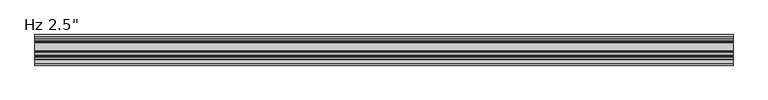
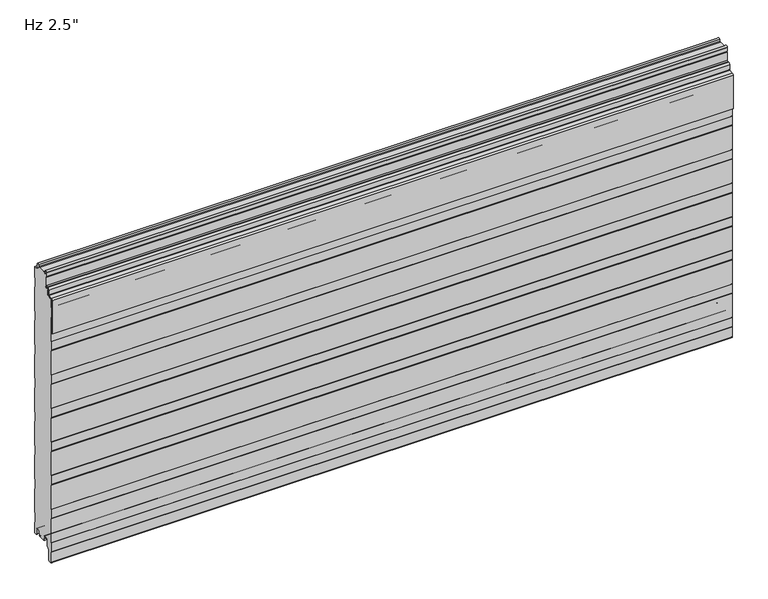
"""IFC4 building model written with IfcOpenShell, lengths in millimetres: plate geometry."""

import ifcopenshell
import ifcopenshell.guid

model = None  # the IFC model being written
_history = None  # IfcOwnerHistory: only IFC2X3 demands one
_inside = {}  # id of a spatial element -> (the spatial element, [elements in it])
_under = {}  # id of a project, library or spatial element -> (it, [spatial elements below it])
_declared = {}  # id of a project -> (the project, [libraries it declares])
_typed = {}  # id of a type object -> (the type object, [elements of that type])
_made_of = {}  # id of a material, layer set ... -> (it, [elements and type objects made of it])


def new_model(schema):
    """Start an empty IFC model of exactly this schema.

    Asked for "IFC4X3", IfcOpenShell would pick the latest addendum, in which some entities
    have other attributes; the version numbers below select the first issue.
    IFC2X3 requires an IfcOwnerHistory on every rooted entity: one is made here for all.
    """
    global model, _history
    if schema == "IFC4X3":
        model = ifcopenshell.file(schema_version=(4, 3, 0, 0))
    else:
        model = ifcopenshell.file(schema=schema)
    _inside.clear()
    _under.clear()
    _declared.clear()
    _typed.clear()
    _made_of.clear()
    _history = None
    if model.schema == "IFC2X3":
        org = make("IfcOrganization", Name="unknown")
        user = make(
            "IfcPersonAndOrganization",
            ThePerson=make("IfcPerson", FamilyName="unknown"),
            TheOrganization=org,
        )
        app = make(
            "IfcApplication",
            ApplicationDeveloper=org,
            Version="unknown",
            ApplicationFullName="unknown",
            ApplicationIdentifier="unknown",
        )
        _history = make(
            "IfcOwnerHistory",
            OwningUser=user,
            OwningApplication=app,
            ChangeAction="ADDED",
            CreationDate=0,
        )
    return model


def make(cls, **values):
    """One entity of the class cls with the attributes given. An attribute that is None is left unset."""
    return model.create_entity(
        cls, **{name: value for name, value in values.items() if value is not None}
    )


def rooted(cls, **values):
    """An entity with a GlobalId (a new one), such as an element, a storey or a relation."""
    return make(cls, GlobalId=ifcopenshell.guid.new(), OwnerHistory=_history, **values)


def si_unit(unit_type, name, prefix=None):
    """IfcSIUnit, for example si_unit("LENGTHUNIT", "METRE", prefix="MILLI")."""
    return make("IfcSIUnit", UnitType=unit_type, Prefix=prefix, Name=name)


def assignment(units):
    """IfcUnitAssignment: the units of a project."""
    return None if units is None else make("IfcUnitAssignment", Units=units)


def point(xyz):
    """IfcCartesianPoint."""
    return None if xyz is None else make("IfcCartesianPoint", Coordinates=xyz)


def direction(xyz):
    """IfcDirection."""
    return None if xyz is None else make("IfcDirection", DirectionRatios=xyz)


def frame(location, z_axis=None, x_axis=None):
    """IfcAxis2Placement3D, a coordinate frame: its origin and axes. An axis left out is left unset."""
    return make(
        "IfcAxis2Placement3D",
        Location=point(location),
        Axis=direction(z_axis),
        RefDirection=direction(x_axis),
    )


def frame_2d(location, x_axis=None):
    """IfcAxis2Placement2D, a coordinate frame in the plane: its origin and x axis."""
    return make(
        "IfcAxis2Placement2D", Location=point(location), RefDirection=direction(x_axis)
    )


def origin():
    """The frame at (0, 0, 0) with its axes left unset."""
    return frame((0.0, 0.0, 0.0))


def place(relative_to, where):
    """IfcLocalPlacement: puts the frame where relative to a parent placement (None: the world)."""
    return make(
        "IfcLocalPlacement", PlacementRelTo=relative_to, RelativePlacement=where
    )


def context(
    kind, dimensions, precision=None, world=None, true_north=None, identifier=None
):
    """IfcGeometricRepresentationContext, for example the 3D "Model" context."""
    return make(
        "IfcGeometricRepresentationContext",
        ContextIdentifier=identifier,
        ContextType=kind,
        CoordinateSpaceDimension=dimensions,
        Precision=precision,
        WorldCoordinateSystem=world,
        TrueNorth=true_north,
    )


def project(units=None, contexts=None):
    """IfcProject with its units and contexts."""
    return rooted(
        "IfcProject",
        Name="project",
        RepresentationContexts=contexts,
        UnitsInContext=assignment(units),
    )


def spatial(cls, under=None, at=None, **own):
    """A site, building, storey or space (cls), placed at a placement, below another one or the project."""
    s = rooted(cls, ObjectPlacement=at, **own)
    if under is not None:
        _under.setdefault(under.id(), (under, []))[1].append(s)
    return s


def polyline(points):
    """IfcPolyline through the points."""
    return make("IfcPolyline", Points=[point(p) for p in points])


def circle_curve(where, radius):
    """IfcCircle in the frame where."""
    return make("IfcCircle", Position=where, Radius=radius)


def trimmed(basis, trim1, trim2, sense, master):
    """IfcTrimmedCurve: the piece of a basis curve between two trims."""
    return make(
        "IfcTrimmedCurve",
        BasisCurve=basis,
        Trim1=trim1,
        Trim2=trim2,
        SenseAgreement=sense,
        MasterRepresentation=master,
    )


def segment(curve, same_sense, transition):
    """IfcCompositeCurveSegment."""
    return make(
        "IfcCompositeCurveSegment",
        Transition=transition,
        SameSense=same_sense,
        ParentCurve=curve,
    )


def composite_curve(segments, self_intersect=None):
    """IfcCompositeCurve: segments joined end to end."""
    return make("IfcCompositeCurve", Segments=segments, SelfIntersect=self_intersect)


def outline(outer, holes=None, kind="AREA"):
    """IfcArbitraryClosedProfileDef: a profile drawn as a closed curve; with holes, ...WithVoids."""
    if holes is None:
        return make("IfcArbitraryClosedProfileDef", ProfileType=kind, OuterCurve=outer)
    return make(
        "IfcArbitraryProfileDefWithVoids",
        ProfileType=kind,
        OuterCurve=outer,
        InnerCurves=holes,
    )


def extrude(swept, where, along, depth):
    """IfcExtrudedAreaSolid: the profile swept, set in the frame where, extruded along a direction by depth."""
    return make(
        "IfcExtrudedAreaSolid",
        SweptArea=swept,
        Position=where,
        ExtrudedDirection=direction(along),
        Depth=depth,
    )


def shape(context_of_items, identifier, shape_type, items):
    """IfcShapeRepresentation: the items that make up one representation, for example the "Body"."""
    return make(
        "IfcShapeRepresentation",
        ContextOfItems=context_of_items,
        RepresentationIdentifier=identifier,
        RepresentationType=shape_type,
        Items=items,
    )


def source(mapping_origin, context_of_items, identifier, shape_type, items):
    """IfcRepresentationMap: a shape defined once, which mapped items show again and again."""
    return make(
        "IfcRepresentationMap",
        MappingOrigin=mapping_origin,
        MappedRepresentation=shape(context_of_items, identifier, shape_type, items),
    )


def transform(
    local_origin,
    x_axis=None,
    y_axis=None,
    z_axis=None,
    scale=None,
    scale2=None,
    scale3=None,
    uniform=True,
):
    """IfcCartesianTransformationOperator3D, or its non-uniform kind. x_axis, y_axis, z_axis: its Axis1, 2, 3."""
    if uniform:
        return make(
            "IfcCartesianTransformationOperator3D",
            Axis1=direction(x_axis),
            Axis2=direction(y_axis),
            LocalOrigin=point(local_origin),
            Scale=scale,
            Axis3=direction(z_axis),
        )
    return make(
        "IfcCartesianTransformationOperator3DnonUniform",
        Axis1=direction(x_axis),
        Axis2=direction(y_axis),
        LocalOrigin=point(local_origin),
        Scale=scale,
        Axis3=direction(z_axis),
        Scale2=scale2,
        Scale3=scale3,
    )


def mapped(mapping_source, mapping_target):
    """IfcMappedItem: shows the shape of a source again, moved by a transform."""
    return make(
        "IfcMappedItem", MappingSource=mapping_source, MappingTarget=mapping_target
    )


def made_of(thing, what):
    """Note that an element or type object is made of a material, layer set ...; save() writes the relation."""
    if what is not None:
        _made_of.setdefault(what.id(), (what, []))[1].append(thing)
    return thing


def element(
    cls,
    number,
    at=None,
    inside=None,
    cuts=None,
    type_object=None,
    material=None,
    context=None,
    identifier="Body",
    shape_type=None,
    held_by="IfcProductDefinitionShape",
    body=None,
    shapes=None,
    **own,
):
    """One element of the class cls, such as IfcWall. Its Tag is "e" and its number.

    at: its placement. inside: the storey or other place that contains it. cuts: it is an
    opening in that element (IfcRelVoidsElement). A single representation is given by context,
    identifier, shape_type and body (its items); several are given by shapes. held_by: the class
    of the entity that holds the representations. save() writes the other relations.
    """
    e = rooted(cls, Tag="e%d" % number, ObjectPlacement=at, **own)
    if body is not None:
        shapes = [shape(context, identifier, shape_type, body)]
    if shapes is not None:
        e.Representation = make(held_by, Representations=shapes)
    if inside is not None:
        _inside.setdefault(inside.id(), (inside, []))[1].append(e)
    if cuts is not None:
        rooted(
            "IfcRelVoidsElement", RelatingBuildingElement=cuts, RelatedOpeningElement=e
        )
    if type_object is not None:
        _typed.setdefault(type_object.id(), (type_object, []))[1].append(e)
    return made_of(e, material)


def aggregate(whole, parts):
    """IfcRelAggregates: a whole, such as a stair, and the parts it consists of."""
    return rooted("IfcRelAggregates", RelatingObject=whole, RelatedObjects=parts)


def save(model, path):
    """Write the relations noted so far, then the file.

    IfcRelAggregates (storeys below a building ...), IfcRelContainedInSpatialStructure (elements
    in a storey), IfcRelDefinesByType, IfcRelAssociatesMaterial and IfcRelDeclares: one each for
    every whole, place, type object, material and project.
    """
    for whole, parts in _under.values():
        aggregate(whole, parts)
    for where, things in _inside.values():
        rooted(
            "IfcRelContainedInSpatialStructure",
            RelatedElements=things,
            RelatingStructure=where,
        )
    for kind, things in _typed.values():
        rooted("IfcRelDefinesByType", RelatedObjects=things, RelatingType=kind)
    for what, things in _made_of.values():
        rooted("IfcRelAssociatesMaterial", RelatedObjects=things, RelatingMaterial=what)
    for by, libraries in _declared.values():
        rooted("IfcRelDeclares", RelatingContext=by, RelatedDefinitions=libraries)
    model.write(path)


def plane_surface(at):
    """IfcPlane: the flat surface through the origin of the frame at, square to its z axis."""
    return make("IfcPlane", Position=at)


def cylinder_surface(at, radius):
    """IfcCylindricalSurface: all points at the distance radius from the z axis of the frame at."""
    return make("IfcCylindricalSurface", Position=at, Radius=radius)


def revolved_surface(curve, axis_point, axis_direction):
    """IfcSurfaceOfRevolution: the curve turned about the line through axis_point along axis_direction."""
    return make(
        "IfcSurfaceOfRevolution",
        SweptCurve=make("IfcArbitraryOpenProfileDef", ProfileType="CURVE", Curve=curve),
        AxisPosition=make("IfcAxis1Placement", Location=point(axis_point), Axis=direction(axis_direction)),
    )


def advanced_brep(points, edges, surfaces, faces):
    """IfcAdvancedBrep: a solid bounded by faces that lie on surfaces and meet in shared edges.

    An edge is (start, end): straight between two places in points (the first is 0);
    or (start, end, curve); or (start, end, curve, False) where it runs against its curve.
    A face is (place in surfaces, loops), or (place, loops, False) where it looks against
    its surface's normal. A loop lists edges by number (the first is 1), with a minus sign
    where the edge is run from its end to its start. The first loop is the outer one.
    """
    corners = [point(p) for p in points]
    vertices = [make("IfcVertexPoint", VertexGeometry=c) for c in corners]
    made = []
    for start, end, *more in edges:
        made.append(
            make(
                "IfcEdgeCurve",
                EdgeStart=vertices[start],
                EdgeEnd=vertices[end],
                EdgeGeometry=more[0] if more else make("IfcPolyline", Points=[corners[start], corners[end]]),
                SameSense=more[1] if len(more) > 1 else True,
            )
        )
    hull = []
    for where, loops, *sense in faces:
        bounds = []
        for j, loop in enumerate(loops):
            ring = [make("IfcOrientedEdge", EdgeElement=made[abs(k) - 1], Orientation=k > 0) for k in loop]
            bounds.append(
                make(
                    "IfcFaceOuterBound" if j == 0 else "IfcFaceBound",
                    Bound=make("IfcEdgeLoop", EdgeList=ring),
                    Orientation=True,
                )
            )
        hull.append(make("IfcAdvancedFace", Bounds=bounds, FaceSurface=surfaces[where], SameSense=sense[0] if sense else True))
    return make("IfcAdvancedBrep", Outer=make("IfcClosedShell", CfsFaces=hull))


def plate_c366fed6(model_context):
    return source(origin(), model_context, "Body", "SolidModel", [
        advanced_brep(
        [(730.0, -42.4008679, 583.4464086), (730.0, -42.4008679, 602.1916086), (730.0, -43.9248679, 602.1916086), (730.0, -43.9248679, 583.4464086), (730.0, -45.4488679, 581.9224086), (730.0, -48.5476679, 581.9224086), (730.0, -52.0020679, 578.4680086), (730.0, -52.0020679, 567.2554512), (730.0, -52.6976552, 566.4963509), (730.0, -62.2416507, 565.3015233), (730.0, -65.024, 562.2651218), (730.0, -65.0360323, 486.6978086), (730.0, -63.5, 486.6978086), (730.0, -63.5, 562.2651218), (730.0, -62.1088254, 563.7833225), (730.0, -52.5648299, 564.9781501), (730.0, -50.4780679, 567.2554512), (730.0, -50.4780679, 578.4680086), (730.0, -48.5476679, 580.3984086), (730.0, -45.4488679, 580.3984086), (-730.0, -42.4008679, 583.4464086), (-730.0, -45.4488679, 580.3984086), (-730.0, -48.5476679, 580.3984086), (-730.0, -50.4780679, 578.4680086), (-730.0, -50.4780679, 567.2554512), (-730.0, -52.5648299, 564.9781501), (-730.0, -62.1088254, 563.7833225), (-730.0, -63.5, 562.2651218), (-730.0, -63.5, 486.6978086), (-730.0, -65.0360323, 486.6978086), (-730.0, -65.0360323, 562.2651218), (-730.0, -62.2416507, 565.3015233), (-730.0, -52.6976552, 566.4963509), (-730.0, -52.0020679, 567.2554512), (-730.0, -52.0020679, 578.4680086), (-730.0, -48.5476679, 581.9224086), (-730.0, -45.4488679, 581.9224086), (-730.0, -43.9248679, 583.4464086), (-730.0, -43.9248679, 602.1916086), (-730.0, -42.4008679, 602.1916086)],
        [
            (0, 1),
            (1, 2),
            (2, 3),
            (3, 4, circle_curve(frame((730.0, -45.4488679, 583.4464086), z_axis=(-1.0, 0.0, 0.0), x_axis=(0.0, 1.0, 0.0)), 1.524)),
            (4, 5),
            (5, 6, circle_curve(frame((730.0, -48.5476679, 578.4680086), z_axis=(1.0, 0.0, 0.0), x_axis=(0.0, 1.0, 0.0)), 3.4544)),
            (6, 7),
            (7, 8, circle_curve(frame((730.0, -52.7640679, 567.2554512), z_axis=(-1.0, 0.0, 0.0), x_axis=(0.0, 1.0, 0.0)), 0.762)),
            (8, 9),
            (9, 10, circle_curve(frame((730.0, -61.976, 562.2651218), z_axis=(1.0, 0.0, 0.0), x_axis=(0.0, 1.0, 0.0)), 3.048)),
            (10, 11),
            (11, 12),
            (12, 13),
            (13, 14, circle_curve(frame((730.0, -61.976, 562.2651218), z_axis=(-1.0, 0.0, 0.0), x_axis=(0.0, 1.0, 0.0)), 1.524)),
            (14, 15),
            (15, 16, circle_curve(frame((730.0, -52.7640679, 567.2554512), z_axis=(1.0, 0.0, 0.0), x_axis=(0.0, 1.0, 0.0)), 2.286)),
            (16, 17),
            (17, 18, circle_curve(frame((730.0, -48.5476679, 578.4680086), z_axis=(-1.0, 0.0, 0.0), x_axis=(0.0, 1.0, 0.0)), 1.9304)),
            (18, 19),
            (19, 0, circle_curve(frame((730.0, -45.4488679, 583.4464086), z_axis=(1.0, 0.0, 0.0), x_axis=(0.0, 1.0, 0.0)), 3.048)),
            (20, 21, circle_curve(frame((-730.0, -45.4488679, 583.4464086), z_axis=(-1.0, 0.0, 0.0), x_axis=(0.0, 1.0, 0.0)), 3.048)),
            (21, 22),
            (22, 23, circle_curve(frame((-730.0, -48.5476679, 578.4680086), z_axis=(1.0, 0.0, 0.0), x_axis=(0.0, 1.0, 0.0)), 1.9304)),
            (23, 24),
            (24, 25, circle_curve(frame((-730.0, -52.7640679, 567.2554512), z_axis=(-1.0, 0.0, 0.0), x_axis=(0.0, 1.0, 0.0)), 2.286)),
            (25, 26),
            (26, 27, circle_curve(frame((-730.0, -61.976, 562.2651218), z_axis=(1.0, 0.0, 0.0), x_axis=(0.0, 1.0, 0.0)), 1.524)),
            (27, 28),
            (28, 29),
            (29, 30),
            (30, 31, circle_curve(frame((-730.0, -61.976, 562.2651218), z_axis=(-1.0, 0.0, 0.0), x_axis=(0.0, 1.0, 0.0)), 3.048)),
            (31, 32),
            (32, 33, circle_curve(frame((-730.0, -52.7640679, 567.2554512), z_axis=(1.0, 0.0, 0.0), x_axis=(0.0, 1.0, 0.0)), 0.762)),
            (33, 34),
            (34, 35, circle_curve(frame((-730.0, -48.5476679, 578.4680086), z_axis=(-1.0, 0.0, 0.0), x_axis=(0.0, 1.0, 0.0)), 3.4544)),
            (35, 36),
            (36, 37, circle_curve(frame((-730.0, -45.4488679, 583.4464086), z_axis=(1.0, 0.0, 0.0), x_axis=(0.0, 1.0, 0.0)), 1.524)),
            (37, 38),
            (38, 39),
            (39, 20),
            (2, 38),
            (37, 3),
            (15, 25),
            (24, 16),
            (7, 33),
            (32, 8),
            (5, 35),
            (34, 6),
            (1, 39),
            (36, 4),
            (9, 31),
            (30, 10),
            (13, 27),
            (26, 14),
            (0, 20),
            (12, 28),
            (29, 11),
            (23, 17),
            (18, 22),
            (21, 19),
        ],
        [
            plane_surface(frame((730.0, -63.5, 602.1916086), z_axis=(1.0, 0.0, 0.0), x_axis=(0.0, 0.0, -1.0))),
            plane_surface(frame((-730.0, -63.5, 602.1916086), z_axis=(-1.0, 0.0, 0.0), x_axis=(0.0, 0.0, -1.0))),
            plane_surface(frame((730.0, -43.9248679, 583.4464086), z_axis=(0.0, -1.0, 0.0), x_axis=(-1.0, 0.0, 0.0))),
            cylinder_surface(frame((730.0, -52.7640679, 567.2554512), z_axis=(1.0, 0.0, 0.0), x_axis=(0.0, 1.0, 0.0)), 2.286),
            revolved_surface(polyline([(-730.0, -52.0020679, 567.2554512), (730.0, -52.0020679, 567.2554512)]), (730.0, -52.7640679, 567.2554512), (-1.0, 0.0, 0.0)),
            cylinder_surface(frame((730.0, -48.5476679, 578.4680086), z_axis=(1.0, 0.0, 0.0), x_axis=(0.0, 1.0, 0.0)), 3.4544),
            plane_surface(frame((730.0, -43.9248679, 602.1916086), z_axis=(0.0, 0.0, 1.0), x_axis=(-1.0, 0.0, 0.0))),
            revolved_surface(polyline([(-730.0, -43.9248679, 583.4464086), (730.0, -43.9248679, 583.4464086)]), (730.0, -45.4488679, 583.4464086), (-1.0, 0.0, 0.0)),
            cylinder_surface(frame((730.0, -61.976, 562.2651218), z_axis=(1.0, 0.0, 0.0), x_axis=(0.0, 1.0, 0.0)), 3.048),
            revolved_surface(polyline([(-730.0, -60.452, 562.2651218), (730.0, -60.452, 562.2651218)]), (730.0, -61.976, 562.2651218), (-1.0, 0.0, 0.0)),
            plane_surface(frame((730.0, -42.4008679, 602.1916086), z_axis=(0.0, 1.0, 0.0), x_axis=(-1.0, 0.0, 0.0))),
            plane_surface(frame((730.0, -52.5648299, 564.9781501), z_axis=(0.0, 0.12422187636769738, -0.9922544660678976), x_axis=(-1.0, 0.0, 0.0))),
            plane_surface(frame((730.0, -63.5, 562.2651218), z_axis=(0.0, 1.0, 0.0), x_axis=(-1.0, 0.0, 0.0))),
            plane_surface(frame((730.0, -62.2416507, 565.3015233), z_axis=(0.0, -0.12422187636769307, 0.9922544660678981), x_axis=(-1.0, 0.0, 0.0))),
            plane_surface(frame((730.0, -48.5476679, 581.9224086), z_axis=(0.0, 0.0, 1.0), x_axis=(-1.0, 0.0, 0.0))),
            plane_surface(frame((730.0, -65.0360323, 486.6978086), z_axis=(0.0, -1.0, 0.0), x_axis=(-1.0, 0.0, 0.0))),
            plane_surface(frame((730.0, -63.5, 486.6978086), z_axis=(0.0, 0.0, -1.0), x_axis=(-1.0, 0.0, 0.0))),
            plane_surface(frame((730.0, -50.4780679, 578.4680086), z_axis=(0.0, 1.0, 0.0), x_axis=(-1.0, 0.0, 0.0))),
            plane_surface(frame((730.0, -45.4488679, 580.3984086), z_axis=(0.0, 0.0, -1.0), x_axis=(-1.0, 0.0, 0.0))),
            plane_surface(frame((730.0, -52.0020679, 567.2554512), z_axis=(0.0, -1.0, 0.0), x_axis=(-1.0, 0.0, 0.0))),
            revolved_surface(polyline([(-730.0, -46.6172679, 578.4680086), (730.0, -46.6172679, 578.4680086)]), (730.0, -48.5476679, 578.4680086), (-1.0, 0.0, 0.0)),
            cylinder_surface(frame((730.0, -45.4488679, 583.4464086), z_axis=(1.0, 0.0, 0.0), x_axis=(0.0, 1.0, 0.0)), 3.048),
        ],
        [
            (0, [[1, 2, 3, 4, 5, 6, 7, 8, 9, 10, 11, 12, 13, 14, 15, 16, 17, 18, 19, 20]]),
            (1, [[21, 22, 23, 24, 25, 26, 27, 28, 29, 30, 31, 32, 33, 34, 35, 36, 37, 38, 39, 40]]),
            (2, [[41, -38, 42, -3]]),
            (3, [[43, -25, 44, -16]]),
            (4, [[45, -33, 46, -8]]),
            (5, [[47, -35, 48, -6]]),
            (6, [[49, -39, -41, -2]]),
            (7, [[-42, -37, 50, -4]]),
            (8, [[51, -31, 52, -10]]),
            (9, [[53, -27, 54, -14]]),
            (10, [[55, -40, -49, -1]]),
            (11, [[-54, -26, -43, -15]]),
            (12, [[56, -28, -53, -13]]),
            (13, [[-46, -32, -51, -9]]),
            (14, [[-50, -36, -47, -5]]),
            (15, [[-52, -30, 57, -11]]),
            (16, [[-57, -29, -56, -12]]),
            (17, [[-44, -24, 58, -17]]),
            (18, [[59, -22, 60, -19]]),
            (19, [[-48, -34, -45, -7]]),
            (20, [[-58, -23, -59, -18]]),
            (21, [[-60, -21, -55, -20]]),
        ],
    ),
        extrude(outline(composite_curve([segment(trimmed(circle_curve(frame_2d((-35.206538, 2.2313092)), 1.1999976), [point((-35.1760161, 1.0316999))], [point((-34.0065413, 2.2328239))], True, "CARTESIAN"), True, "CONTINUOUS"), segment(polyline([(-34.0065413, 2.2328239), (-34.0065413, 5.9912173), (-35.4050202, 5.9912173), (-35.4050202, 8.6903283)]), True, "CONTINUOUS"), segment(trimmed(circle_curve(frame_2d((-38.7550155, 8.6903283)), 3.3499953), [point((-35.4050202, 8.6903283))], [point((-38.7550155, 12.0403236))], True, "CARTESIAN"), True, "CONTINUOUS"), segment(polyline([(-38.7550155, 12.0403236), (-43.1550067, 12.0403236)]), True, "CONTINUOUS"), segment(trimmed(circle_curve(frame_2d((-43.1550067, 8.6903283)), 3.3499953), [point((-43.1550067, 12.0403236))], [point((-46.505002, 8.6903283))], True, "CARTESIAN"), True, "CONTINUOUS"), segment(polyline([(-46.505002, 8.6903283), (-46.505002, -3.1205608)]), True, "CONTINUOUS"), segment(trimmed(circle_curve(frame_2d((-48.2049966, -3.1205608)), 1.6999946), [point((-46.505002, -3.1205608))], [point((-47.0029189, -4.3226385))], False, "CARTESIAN"), True, "CONTINUOUS"), segment(polyline([(-47.0029189, -4.3226385), (-52.50499, -9.8247096), (-52.50499, -31.9198392)]), True, "CONTINUOUS"), segment(trimmed(circle_curve(frame_2d((-55.2049826, -31.9198392)), 2.6999926), [point((-52.50499, -31.9198392))], [point((-54.723592, -34.5765709))], False, "CARTESIAN"), True, "CONTINUOUS"), segment(polyline([(-54.723592, -34.5765709), (-59.7054129, -35.0125699)]), True, "CONTINUOUS"), segment(trimmed(circle_curve(frame_2d((-59.9294985, -32.4521176)), 2.5702393), [point((-59.7054129, -35.0125699))], [point((-62.4997378, -32.4521176))], False, "CARTESIAN"), True, "CONTINUOUS"), segment(polyline([(-62.4997378, -32.4521176), (-62.4997378, -10.4790962), (-61.2997693, -9.2791277), (-61.2997693, 10.4402849), (-62.5, 11.6405156), (-62.5, 65.7206473), (-61.2997693, 66.920878), (-61.2997693, 86.6402905), (-62.5, 87.8405213), (-62.5, 141.920653), (-61.2997693, 143.1208837), (-61.2997693, 162.8402962), (-62.5, 164.0405269), (-62.5, 218.1206587), (-61.2997693, 219.3208894), (-61.2997693, 239.0403019), (-62.5, 240.2405326), (-62.5, 294.3206644), (-61.2997693, 295.5208951), (-61.2997693, 315.2403076), (-62.5, 316.4405383), (-62.5, 370.5206701), (-61.2997693, 371.7209008), (-61.2997693, 391.4403133), (-62.5, 392.640544), (-62.5, 446.7206758), (-61.2997693, 447.9209065), (-61.2997693, 467.640319), (-62.5, 468.8405497), (-62.5, 522.9206815), (-61.2997693, 524.1209122), (-61.2997693, 543.8403247), (-62.5051411, 545.0456965), (-62.5051411, 561.1156233)]), True, "CONTINUOUS"), segment(trimmed(circle_curve(frame_2d((-60.5461194, 561.1156233)), 1.9590216), [point((-62.5051411, 561.1156233))], [point((-60.7178029, 563.0671075))], False, "CARTESIAN"), True, "CONTINUOUS"), segment(polyline([(-60.7178029, 563.0671075), (-52.2590902, 563.821161)]), True, "CONTINUOUS"), segment(trimmed(circle_curve(frame_2d((-52.5231732, 566.8396267)), 3.0299959), [point((-52.2590902, 563.821161))], [point((-49.4957873, 566.9653654))], True, "CARTESIAN"), True, "CONTINUOUS"), segment(polyline([(-49.4957873, 566.9653654), (-49.4957873, 577.0583308)]), True, "CONTINUOUS"), segment(trimmed(circle_curve(frame_2d((-48.5443786, 577.0583308)), 0.9514087), [point((-49.4957873, 577.0583308))], [point((-48.5443786, 578.0097394))], False, "CARTESIAN"), True, "CONTINUOUS"), segment(polyline([(-48.5443786, 578.0097394), (-45.4007233, 578.0097394)]), True, "CONTINUOUS"), segment(trimmed(circle_curve(frame_2d((-45.4007233, 582.0091924)), 3.9994529), [point((-45.4007233, 578.0097394))], [point((-41.4012703, 582.0091924))], True, "CARTESIAN"), True, "CONTINUOUS"), segment(polyline([(-41.4012703, 582.0091924), (-41.4012703, 603.1895515), (-43.3821181, 604.3334028), (-43.0268578, 613.306811)]), True, "CONTINUOUS"), segment(trimmed(circle_curve(frame_2d((-40.9266291, 613.2236622)), 2.1018739), [point((-43.0268578, 613.306811))], [point((-38.8262802, 613.3037148))], False, "CARTESIAN"), True, "CONTINUOUS"), segment(polyline([(-38.8262802, 613.3037148), (-38.5818653, 609.2977997)]), True, "CONTINUOUS"), segment(trimmed(circle_curve(frame_2d((-36.7434917, 609.4099653)), 1.8417922), [point((-38.5818653, 609.2977997))], [point((-36.7870527, 607.5686884))], True, "CARTESIAN"), True, "CONTINUOUS"), segment(polyline([(-36.7870527, 607.5686884), (-34.0025061, 607.5686884), (-34.0025061, 608.5686884), (-35.5900061, 608.5686884), (-34.5586945, 609.6), (-18.6184525, 609.6), (-17.5871409, 608.5686884), (-19.0015288, 608.5686884), (-19.0015288, 607.5686884), (-16.6743462, 607.5686884)]), True, "CONTINUOUS"), segment(trimmed(circle_curve(frame_2d((-16.6743462, 609.3186869)), 1.7499985), [point((-16.6743462, 607.5686884))], [point((-14.9256429, 609.2513685))], True, "CARTESIAN"), True, "CONTINUOUS"), segment(polyline([(-14.9256429, 609.2513685), (-14.7059822, 613.3921924)]), True, "CONTINUOUS"), segment(trimmed(circle_curve(frame_2d((-12.5552871, 613.2781032)), 2.153719), [point((-14.7059822, 613.3921924))], [point((-10.4046442, 613.3931719))], False, "CARTESIAN"), True, "CONTINUOUS"), segment(polyline([(-10.4046442, 613.3931719), (-9.9974365, 604.9016499)]), True, "CONTINUOUS"), segment(trimmed(circle_curve(frame_2d((-5.9867338, 605.0939817)), 4.0153117), [point((-9.9974365, 604.9016499))], [point((-6.0026007, 601.0787013))], True, "CARTESIAN"), True, "CONTINUOUS"), segment(polyline([(-6.0026007, 601.0787013), (-1.0, 601.0787013), (-1.0, 576.5794011), (-2.2002307, 575.1937682), (-2.2002307, 555.8186019), (-1.0, 554.4329689), (-1.0, 500.3795535), (-2.2002307, 498.9939206), (-2.2002307, 479.6187543), (-1.0, 478.2331213), (-1.0, 424.1797059), (-2.2002307, 422.794073), (-2.2002307, 403.4189067), (-1.0, 402.0332737), (-1.0, 347.9798583), (-2.2002307, 346.5942254), (-2.2002307, 327.2190591), (-1.0, 325.8334261), (-1.0, 271.7800107), (-2.2002307, 270.3943778), (-2.2002307, 251.0192115), (-1.0, 249.6335785), (-1.0, 195.5801631), (-2.2002307, 194.1945302), (-2.2002307, 174.8193639), (-1.0, 173.4337309), (-1.0, 119.3803155), (-2.2002307, 117.9946826), (-2.2002307, 98.6195163), (-1.0, 97.2338833), (-1.0, 43.1804679), (-2.2002307, 41.794835), (-2.2002307, 22.4196687), (-0.9999916, 21.034026), (-0.9999916, -3.4662506), (-5.2315389, -3.4662506)]), True, "CONTINUOUS"), segment(trimmed(circle_curve(frame_2d((-5.2315389, -1.6962564)), 1.7699942), [point((-5.2315389, -3.4662506))], [point((-7.0015331, -1.6962564))], False, "CARTESIAN"), True, "CONTINUOUS"), segment(polyline([(-7.0015331, -1.6962564), (-7.0015331, 8.7237222)]), True, "CONTINUOUS"), segment(trimmed(circle_curve(frame_2d((-10.301529, 8.7237222)), 3.2999959), [point((-7.0015331, 8.7237222))], [point((-10.301529, 12.023718))], True, "CARTESIAN"), True, "CONTINUOUS"), segment(polyline([(-10.301529, 12.023718), (-14.7015202, 12.023718)]), True, "CONTINUOUS"), segment(trimmed(circle_curve(frame_2d((-14.7015202, 8.7237223)), 3.2999957), [point((-14.7015202, 12.023718))], [point((-18.0015159, 8.7237223))], True, "CARTESIAN"), True, "CONTINUOUS"), segment(polyline([(-18.0015159, 8.7237223), (-18.0015159, 6.0315125), (-19.0015105, 6.0315125), (-19.0015105, 2.0313089)]), True, "CONTINUOUS"), segment(trimmed(circle_curve(frame_2d((-18.0015133, 2.0313089)), 0.9999972), [point((-19.0015105, 2.0313089))], [point((-18.0015192, 1.0313117))], True, "CARTESIAN"), True, "CONTINUOUS"), segment(polyline([(-18.0015192, 1.0313117), (-19.0328308, 0.0), (-34.1443162, 0.0), (-35.1760161, 1.0316999)]), True, "CONTINUOUS")], self_intersect=False)), frame((-730.0, 0.0, 0.0), z_axis=(1.0, 0.0, 0.0), x_axis=(0.0, 1.0, 0.0)), (0.0, 0.0, 1.0), 1460.0),
    ])


if __name__ == "__main__":
    model = new_model("IFC4")
    model_context = context("Model", 3, world=origin())
    ifc_project = project(units=[si_unit("LENGTHUNIT", "METRE", prefix="MILLI")], contexts=[model_context])
    site = spatial("IfcSite", under=ifc_project)
    building = spatial("IfcBuilding", under=site)
    placement = place(None, origin())
    plate_shape = plate_c366fed6(model_context)
    element("IfcPlate", 1, ObjectType="KIP-24-Karrier-KP-R19-CP-Hz-SL3-8in_SL : Hz 2.5\"", at=placement, inside=building, context=model_context, shape_type="MappedRepresentation", body=[
        mapped(plate_shape, transform((0.0, 0.0, 0.0), x_axis=(1.0, 0.0, 0.0), y_axis=(0.0, 1.0, 0.0), z_axis=(0.0, 0.0, 1.0))),
    ])
    save(model, "model.ifc")
